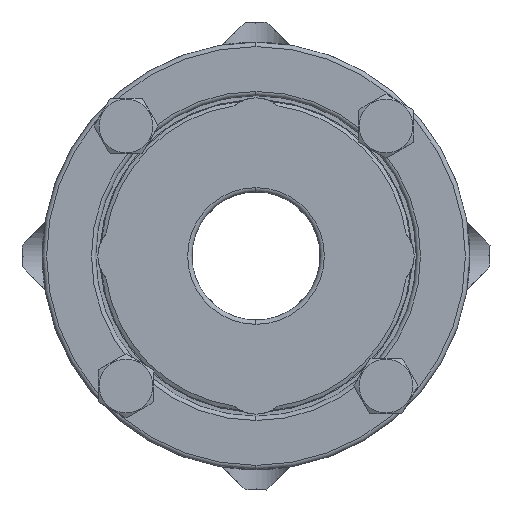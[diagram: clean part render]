
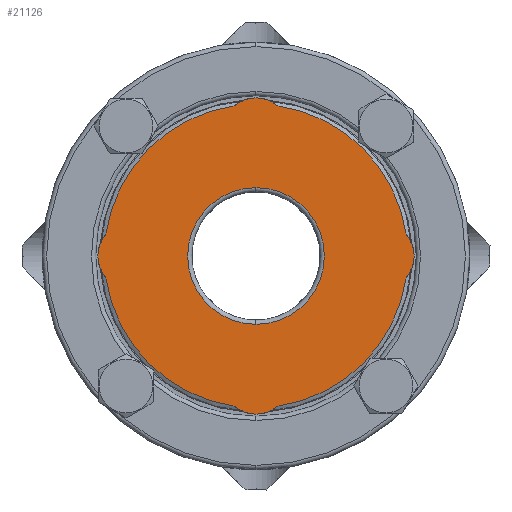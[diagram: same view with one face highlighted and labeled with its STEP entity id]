
A CAD part, left-side view. The second image highlights one B-rep face of the part: STEP entity #21126.
In plain terms, the highlighted planar face has unit normal (-1, 0, 0).
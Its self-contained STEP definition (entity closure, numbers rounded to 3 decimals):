
#109 = DIRECTION ( 'NONE',  ( -1., 0., 0. ) ) ;
#201 = CARTESIAN_POINT ( 'NONE',  ( -44., -35.125, -5.146 ) ) ;
#211 = EDGE_CURVE ( 'NONE', #21148, #3194, #3005, .T. ) ;
#495 = CARTESIAN_POINT ( 'NONE',  ( -44., -29., 8. ) ) ;
#502 = ORIENTED_EDGE ( 'NONE', *, *, #10301, .T. ) ;
#556 = EDGE_CURVE ( 'NONE', #3153, #7163, #23783, .T. ) ;
#738 = DIRECTION ( 'NONE',  ( 0., -1., 0. ) ) ;
#744 = ORIENTED_EDGE ( 'NONE', *, *, #211, .T. ) ;
#826 = DIRECTION ( 'NONE',  ( 0., -1., 0. ) ) ;
#876 = ORIENTED_EDGE ( 'NONE', *, *, #20589, .T. ) ;
#1034 = CARTESIAN_POINT ( 'NONE',  ( -44., 35.125, 5.146 ) ) ;
#1903 = DIRECTION ( 'NONE',  ( 0., 1., 0. ) ) ;
#1934 = DIRECTION ( 'NONE',  ( 0., 0., -1. ) ) ;
#2050 = DIRECTION ( 'NONE',  ( -1., 0., 0. ) ) ;
#2280 = EDGE_CURVE ( 'NONE', #12236, #13040, #14832, .T. ) ;
#2698 = AXIS2_PLACEMENT_3D ( 'NONE', #21361, #23306, #826 ) ;
#2720 = DIRECTION ( 'NONE',  ( 0., 0., 1. ) ) ;
#2971 = AXIS2_PLACEMENT_3D ( 'NONE', #9190, #13000, #22722 ) ;
#2999 = DIRECTION ( 'NONE',  ( 0., 0., -1. ) ) ;
#3005 = CIRCLE ( 'NONE', #11207, 8. ) ;
#3008 = CARTESIAN_POINT ( 'NONE',  ( -44., -29., 0. ) ) ;
#3045 = EDGE_LOOP ( 'NONE', ( #10475, #16971, #6764, #8511, #9456, #20593, #502, #744, #9260, #19498, #4735, #11432 ) ) ;
#3153 = VERTEX_POINT ( 'NONE', #4679 ) ;
#3194 = VERTEX_POINT ( 'NONE', #19124 ) ;
#3301 = AXIS2_PLACEMENT_3D ( 'NONE', #8467, #23717, #8825 ) ;
#3700 = VERTEX_POINT ( 'NONE', #4111 ) ;
#3734 = DIRECTION ( 'NONE',  ( -1., 0., 0. ) ) ;
#4111 = CARTESIAN_POINT ( 'NONE',  ( -44., 0., 16. ) ) ;
#4409 = EDGE_CURVE ( 'NONE', #12236, #22453, #12761, .T. ) ;
#4679 = CARTESIAN_POINT ( 'NONE',  ( -44., -5.146, 35.125 ) ) ;
#4735 = ORIENTED_EDGE ( 'NONE', *, *, #6443, .T. ) ;
#4761 = EDGE_CURVE ( 'NONE', #16292, #3194, #13873, .T. ) ;
#4837 = DIRECTION ( 'NONE',  ( 0., 0., -1. ) ) ;
#5122 = DIRECTION ( 'NONE',  ( 0., 0., -1. ) ) ;
#5312 = EDGE_CURVE ( 'NONE', #3153, #23444, #18412, .T. ) ;
#5330 = AXIS2_PLACEMENT_3D ( 'NONE', #19438, #13400, #2720 ) ;
#5572 = EDGE_CURVE ( 'NONE', #9916, #17316, #9981, .T. ) ;
#5768 = VERTEX_POINT ( 'NONE', #17713 ) ;
#5894 = AXIS2_PLACEMENT_3D ( 'NONE', #7672, #2050, #1934 ) ;
#6007 = PLANE ( 'NONE',  #10412 ) ;
#6443 = EDGE_CURVE ( 'NONE', #5768, #22453, #16489, .T. ) ;
#6677 = CARTESIAN_POINT ( 'NONE',  ( -44., 0., 0. ) ) ;
#6707 = CARTESIAN_POINT ( 'NONE',  ( -44., -37., 0. ) ) ;
#6764 = ORIENTED_EDGE ( 'NONE', *, *, #5312, .F. ) ;
#7085 = EDGE_CURVE ( 'NONE', #13503, #3700, #14120, .T. ) ;
#7110 = EDGE_CURVE ( 'NONE', #16292, #5768, #8239, .T. ) ;
#7146 = DIRECTION ( 'NONE',  ( 0., -1., 0. ) ) ;
#7163 = VERTEX_POINT ( 'NONE', #22683 ) ;
#7436 = DIRECTION ( 'NONE',  ( 0., 0., -1. ) ) ;
#7672 = CARTESIAN_POINT ( 'NONE',  ( -44., 0., -29. ) ) ;
#8239 = CIRCLE ( 'NONE', #5894, 8. ) ;
#8243 = EDGE_CURVE ( 'NONE', #7163, #17316, #10634, .T. ) ;
#8330 = CARTESIAN_POINT ( 'NONE',  ( -44., 37., 0. ) ) ;
#8467 = CARTESIAN_POINT ( 'NONE',  ( -44., 0., 0. ) ) ;
#8511 = ORIENTED_EDGE ( 'NONE', *, *, #556, .T. ) ;
#8596 = EDGE_LOOP ( 'NONE', ( #10688, #876 ) ) ;
#8660 = AXIS2_PLACEMENT_3D ( 'NONE', #15954, #21141, #14095 ) ;
#8825 = DIRECTION ( 'NONE',  ( 0., 0., -1. ) ) ;
#9043 = CARTESIAN_POINT ( 'NONE',  ( -44., 0., -29. ) ) ;
#9190 = CARTESIAN_POINT ( 'NONE',  ( -44., 0., 0. ) ) ;
#9260 = ORIENTED_EDGE ( 'NONE', *, *, #4761, .F. ) ;
#9456 = ORIENTED_EDGE ( 'NONE', *, *, #8243, .T. ) ;
#9850 = CARTESIAN_POINT ( 'NONE',  ( -44., 0., 0. ) ) ;
#9916 = VERTEX_POINT ( 'NONE', #1034 ) ;
#9981 = CIRCLE ( 'NONE', #13125, 35.5 ) ;
#10301 = EDGE_CURVE ( 'NONE', #9916, #21148, #13013, .T. ) ;
#10412 = AXIS2_PLACEMENT_3D ( 'NONE', #495, #13632, #738 ) ;
#10475 = ORIENTED_EDGE ( 'NONE', *, *, #2280, .T. ) ;
#10634 = CIRCLE ( 'NONE', #8660, 8. ) ;
#10688 = ORIENTED_EDGE ( 'NONE', *, *, #7085, .T. ) ;
#11083 = CARTESIAN_POINT ( 'NONE',  ( -44., 29., 0. ) ) ;
#11207 = AXIS2_PLACEMENT_3D ( 'NONE', #11083, #3734, #1903 ) ;
#11432 = ORIENTED_EDGE ( 'NONE', *, *, #4409, .F. ) ;
#11777 = FACE_OUTER_BOUND ( 'NONE', #3045, .T. ) ;
#12236 = VERTEX_POINT ( 'NONE', #201 ) ;
#12761 = CIRCLE ( 'NONE', #16319, 35.5 ) ;
#13000 = DIRECTION ( 'NONE',  ( 1., 0., 0. ) ) ;
#13013 = CIRCLE ( 'NONE', #19714, 8. ) ;
#13040 = VERTEX_POINT ( 'NONE', #6707 ) ;
#13098 = CIRCLE ( 'NONE', #16261, 8. ) ;
#13125 = AXIS2_PLACEMENT_3D ( 'NONE', #16009, #14147, #2999 ) ;
#13400 = DIRECTION ( 'NONE',  ( -1., 0., 0. ) ) ;
#13503 = VERTEX_POINT ( 'NONE', #22050 ) ;
#13632 = DIRECTION ( 'NONE',  ( -1., 0., 0. ) ) ;
#13873 = CIRCLE ( 'NONE', #3301, 35.5 ) ;
#14095 = DIRECTION ( 'NONE',  ( 0., 0., 1. ) ) ;
#14120 = CIRCLE ( 'NONE', #17687, 16. ) ;
#14147 = DIRECTION ( 'NONE',  ( 1., 0., 0. ) ) ;
#14156 = DIRECTION ( 'NONE',  ( -1., 0., 0. ) ) ;
#14639 = CARTESIAN_POINT ( 'NONE',  ( -44., 5.146, 35.125 ) ) ;
#14832 = CIRCLE ( 'NONE', #2698, 8. ) ;
#15257 = AXIS2_PLACEMENT_3D ( 'NONE', #9850, #17486, #17615 ) ;
#15328 = CARTESIAN_POINT ( 'NONE',  ( -44., 29., 0. ) ) ;
#15362 = CARTESIAN_POINT ( 'NONE',  ( -44., -5.146, -35.125 ) ) ;
#15588 = CARTESIAN_POINT ( 'NONE',  ( -44., -35.125, 5.146 ) ) ;
#15954 = CARTESIAN_POINT ( 'NONE',  ( -44., 0., 29. ) ) ;
#16009 = CARTESIAN_POINT ( 'NONE',  ( -44., 0., 0. ) ) ;
#16261 = AXIS2_PLACEMENT_3D ( 'NONE', #3008, #14156, #7146 ) ;
#16292 = VERTEX_POINT ( 'NONE', #22546 ) ;
#16319 = AXIS2_PLACEMENT_3D ( 'NONE', #6677, #21686, #4837 ) ;
#16489 = CIRCLE ( 'NONE', #18059, 8. ) ;
#16798 = DIRECTION ( 'NONE',  ( 1., 0., 0. ) ) ;
#16971 = ORIENTED_EDGE ( 'NONE', *, *, #17309, .T. ) ;
#17309 = EDGE_CURVE ( 'NONE', #13040, #23444, #13098, .T. ) ;
#17316 = VERTEX_POINT ( 'NONE', #14639 ) ;
#17486 = DIRECTION ( 'NONE',  ( 1., 0., 0. ) ) ;
#17615 = DIRECTION ( 'NONE',  ( 0., 0., -1. ) ) ;
#17687 = AXIS2_PLACEMENT_3D ( 'NONE', #18895, #16798, #7436 ) ;
#17713 = CARTESIAN_POINT ( 'NONE',  ( -44., 0., -37. ) ) ;
#18059 = AXIS2_PLACEMENT_3D ( 'NONE', #9043, #18775, #5122 ) ;
#18412 = CIRCLE ( 'NONE', #15257, 35.5 ) ;
#18775 = DIRECTION ( 'NONE',  ( -1., 0., 0. ) ) ;
#18783 = DIRECTION ( 'NONE',  ( 0., 1., 0. ) ) ;
#18895 = CARTESIAN_POINT ( 'NONE',  ( -44., 0., 0. ) ) ;
#19124 = CARTESIAN_POINT ( 'NONE',  ( -44., 35.125, -5.146 ) ) ;
#19438 = CARTESIAN_POINT ( 'NONE',  ( -44., 0., 29. ) ) ;
#19498 = ORIENTED_EDGE ( 'NONE', *, *, #7110, .T. ) ;
#19714 = AXIS2_PLACEMENT_3D ( 'NONE', #15328, #109, #18783 ) ;
#20264 = CIRCLE ( 'NONE', #2971, 16. ) ;
#20589 = EDGE_CURVE ( 'NONE', #3700, #13503, #20264, .T. ) ;
#20593 = ORIENTED_EDGE ( 'NONE', *, *, #5572, .F. ) ;
#21126 = ADVANCED_FACE ( 'NONE', ( #11777, #23102 ), #6007, .T. ) ;
#21141 = DIRECTION ( 'NONE',  ( -1., 0., 0. ) ) ;
#21148 = VERTEX_POINT ( 'NONE', #8330 ) ;
#21361 = CARTESIAN_POINT ( 'NONE',  ( -44., -29., 0. ) ) ;
#21686 = DIRECTION ( 'NONE',  ( 1., 0., 0. ) ) ;
#22050 = CARTESIAN_POINT ( 'NONE',  ( -44., 0., -16. ) ) ;
#22453 = VERTEX_POINT ( 'NONE', #15362 ) ;
#22546 = CARTESIAN_POINT ( 'NONE',  ( -44., 5.146, -35.125 ) ) ;
#22683 = CARTESIAN_POINT ( 'NONE',  ( -44., 0., 37. ) ) ;
#22722 = DIRECTION ( 'NONE',  ( 0., 0., -1. ) ) ;
#23102 = FACE_BOUND ( 'NONE', #8596, .T. ) ;
#23306 = DIRECTION ( 'NONE',  ( -1., 0., 0. ) ) ;
#23444 = VERTEX_POINT ( 'NONE', #15588 ) ;
#23717 = DIRECTION ( 'NONE',  ( 1., 0., 0. ) ) ;
#23783 = CIRCLE ( 'NONE', #5330, 8. ) ;
